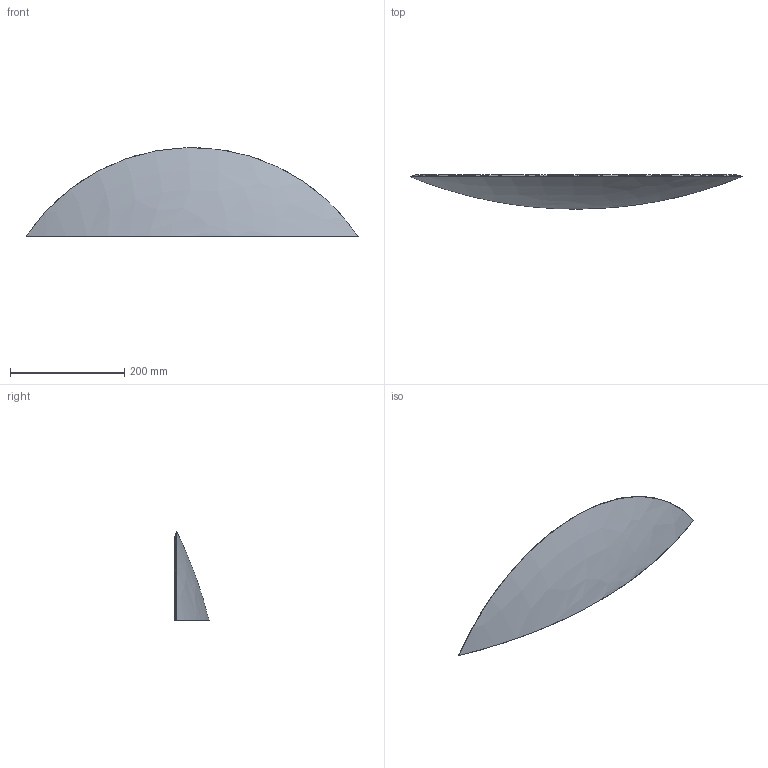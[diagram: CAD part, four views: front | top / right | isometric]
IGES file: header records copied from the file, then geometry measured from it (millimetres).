
Start section: SolidWorks IGES file using analytic representation for surfaces
Global section: file name: C:\Users\Stagiaire\Desktop\Rendu 3D\1444\1444.IGS; native system: SolidWorks 2014; preprocessor: SolidWorks 2014; author: Stagiaire; date: 140916.160524; units: millimetre
Bounding box: 579.97 x 59.68 x 154.88 mm (x, y, z)
Surface area: 175296.9 mm2 (no closed solid volume)
Topology: 0 solids, 0 shells, 7 faces, 138 edges, 138 vertices
Faces by surface type: bspline 7
